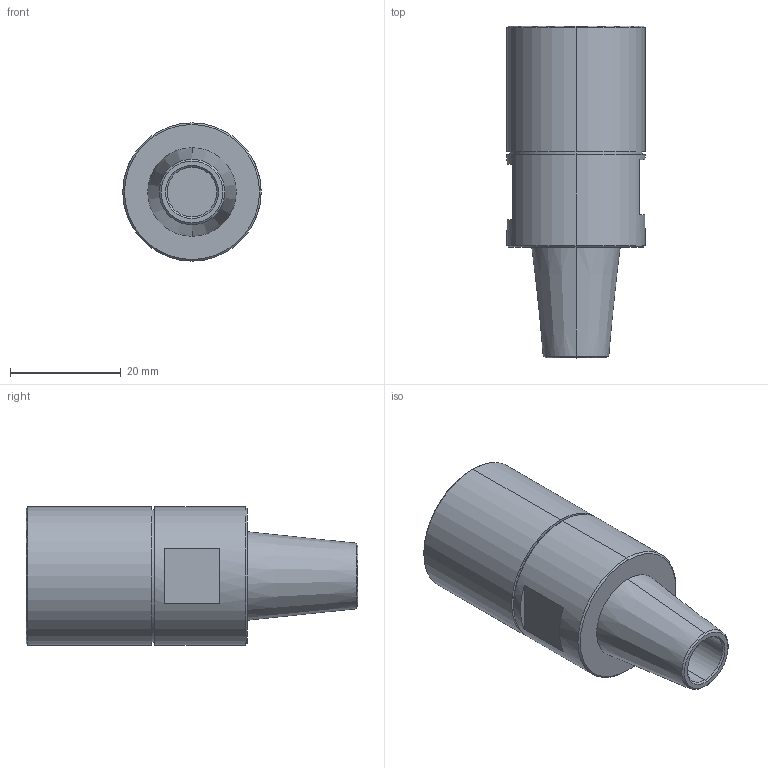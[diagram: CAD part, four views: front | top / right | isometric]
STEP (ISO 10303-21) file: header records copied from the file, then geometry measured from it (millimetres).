
FILE_DESCRIPTION (( 'STEP AP203' ), '1' );
FILE_NAME ('SW-PB-D10-3.STEP', '2022-06-15T02:19:10', ( '' ), ( '' ), 'SwSTEP 2.0', 'SolidWorks 2015', '' );
FILE_SCHEMA (( 'CONFIG_CONTROL_DESIGN' ));
Length unit declared in the file: millimetre
Products named in the file (2): SW-PB-D10-3
Bounding box: 25 x 60 x 25 mm (x, y, z)
Volume: 20177.3 mm3; surface area: 6013.6 mm2
Topology: 1 solids, 1 shells, 30 faces, 58 edges, 36 vertices
Faces by surface type: plane 12, cone 10, cylinder 8
Entity records: 985 total; most frequent: CARTESIAN_POINT 198, DIRECTION 146, ORIENTED_EDGE 116, AXIS2_PLACEMENT_3D 60, EDGE_CURVE 58, VERTEX_POINT 36, EDGE_LOOP 36, ADVANCED_FACE 30
